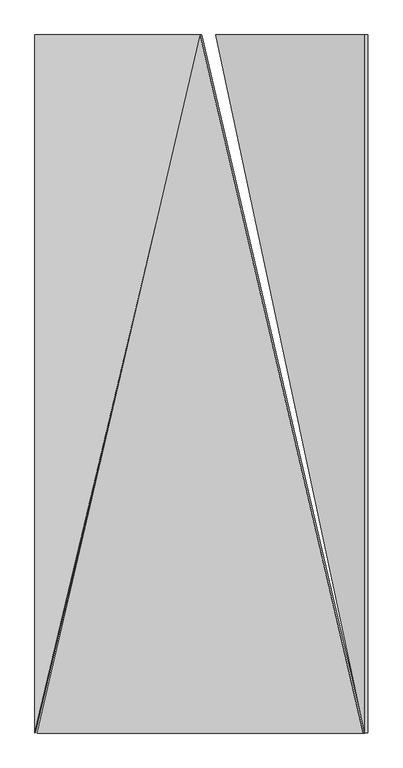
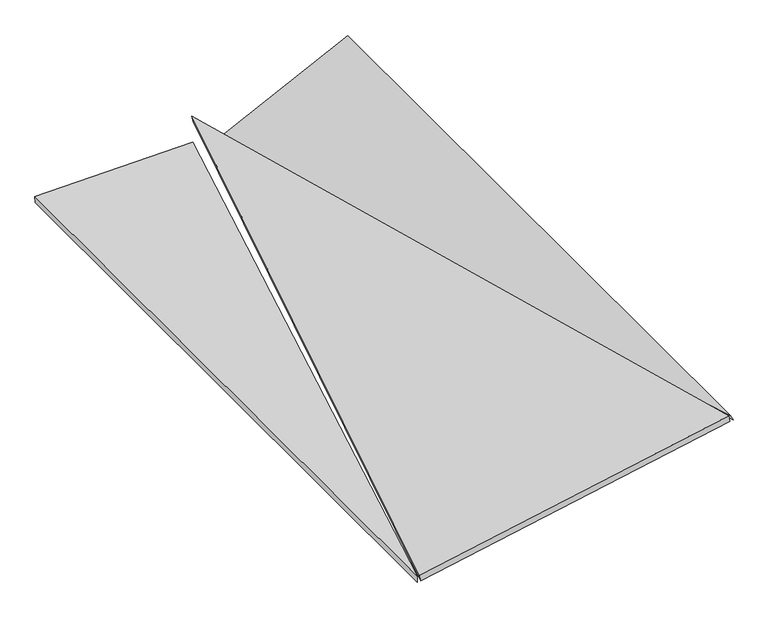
"""IFC4 building model written with IfcOpenShell, lengths in millimetres: proxy geometry, panel sufitowy 6 : panel sufitowy 6."""

from ifc_helpers import new_model, si_unit, frame, origin, place, context, project, spatial, polyline, outline, extrude, source, transform, mapped, element, save


def generic_models_476431cb(model_context):
    return source(origin(), model_context, "Body", "SweptSolid", [
        extrude(outline(polyline([(-900.9098917, 0.0), (1006.1909889, 962.7191946), (1235.4098448, 0.0), (-900.9098917, 0.0)])), frame((545.2918602, 1457.4151922, 1290.2824633), z_axis=(-0.1908089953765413, 0.0, 0.9816271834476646), x_axis=(-0.22736500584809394, -0.9728062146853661, -0.04419528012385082)), (0.0, 0.0, 1.0), 20.0),
        extrude(outline(polyline([(-127.5, 0.0), (-127.5, -2079.0), (-622.5, 0.0), (-127.5, 0.0)])), frame((1360.1708079, 2335.0, 1482.2959536), z_axis=(-0.43837114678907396, 0.0, 0.8987940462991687), x_axis=(0.8987940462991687, 0.0, 0.43837114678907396)), (0.0, 0.0, 1.0), 20.0),
        extrude(outline(polyline([(-127.5, 0.0), (-622.5, 0.0), (-127.5, 2079.0), (-127.5, 0.0)])), frame((126.6505306, 2335.0, 1231.4613652), z_axis=(-0.017452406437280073, 0.0, 0.9998476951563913), x_axis=(-0.9998476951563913, 0.0, -0.017452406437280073)), (0.0, 0.0, 1.0), 20.0),
    ])


if __name__ == "__main__":
    model = new_model("IFC4")
    model_context = context("Model", 3, world=origin())
    ifc_project = project(units=[si_unit("LENGTHUNIT", "METRE", prefix="MILLI")], contexts=[model_context])
    site = spatial("IfcSite", under=ifc_project)
    building = spatial("IfcBuilding", under=site)
    placement = place(None, origin())
    generic_models_shape = generic_models_476431cb(model_context)
    element("IfcBuildingElementProxy", 1, Name="panel sufitowy 6 : panel sufitowy 6", ObjectType="panel sufitowy 6 : panel sufitowy 6", at=placement, inside=building, context=model_context, shape_type="MappedRepresentation", body=[
        mapped(generic_models_shape, transform((0.0, 0.0, 0.0), x_axis=(1.0, 0.0, 0.0), y_axis=(0.0, 1.0, 0.0), z_axis=(0.0, 0.0, 1.0))),
    ])
    save(model, "model.ifc")
